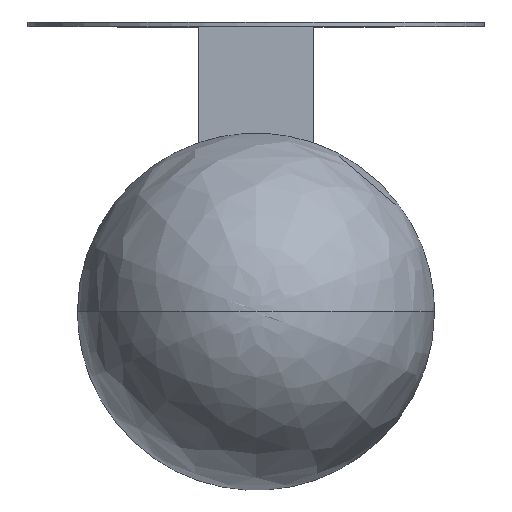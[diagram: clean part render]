
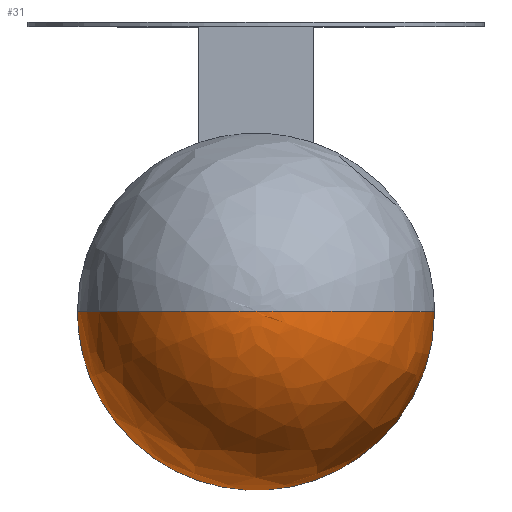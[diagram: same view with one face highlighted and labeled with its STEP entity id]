
A CAD part, top view. The second image highlights one B-rep face of the part: STEP entity #31.
In plain terms, the highlighted free-form (B-spline) face has degree [2, 2] with [5, 5] control points.
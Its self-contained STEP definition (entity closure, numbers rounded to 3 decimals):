
#31=ADVANCED_FACE('',(#43),#171,.T.);
#43=FACE_OUTER_BOUND('',#57,.T.);
#57=EDGE_LOOP('',(#98,#99,#100));
#98=ORIENTED_EDGE('',*,*,#124,.T.);
#99=ORIENTED_EDGE('',*,*,#117,.F.);
#100=ORIENTED_EDGE('',*,*,#123,.F.);
#117=EDGE_CURVE('',#159,#160,#131,.T.);
#123=EDGE_CURVE('',#163,#159,#137,.T.);
#124=EDGE_CURVE('',#163,#160,#138,.T.);
#131=(
BOUNDED_CURVE()
B_SPLINE_CURVE(2,(#393,#394,#395),.UNSPECIFIED.,.F.,.F.)
B_SPLINE_CURVE_WITH_KNOTS((3,3),(10.898,12.469),
 .UNSPECIFIED.)
CURVE()
GEOMETRIC_REPRESENTATION_ITEM()
RATIONAL_B_SPLINE_CURVE((1.,0.707,1.))
REPRESENTATION_ITEM('')
);
#137=(
BOUNDED_CURVE()
B_SPLINE_CURVE(2,(#416,#417,#418,#419,#420),.UNSPECIFIED.,.F.,.F.)
B_SPLINE_CURVE_WITH_KNOTS((3,2,3),(-186.918,-93.459,
0.),.UNSPECIFIED.)
CURVE()
GEOMETRIC_REPRESENTATION_ITEM()
RATIONAL_B_SPLINE_CURVE((1.,0.707,1.,0.707,1.))
REPRESENTATION_ITEM('')
);
#138=(
BOUNDED_CURVE()
B_SPLINE_CURVE(2,(#421,#422,#423),.UNSPECIFIED.,.F.,.F.)
B_SPLINE_CURVE_WITH_KNOTS((3,3),(10.898,12.469),
 .UNSPECIFIED.)
CURVE()
GEOMETRIC_REPRESENTATION_ITEM()
RATIONAL_B_SPLINE_CURVE((1.,0.707,1.))
REPRESENTATION_ITEM('')
);
#159=VERTEX_POINT('',#354);
#160=VERTEX_POINT('',#355);
#163=VERTEX_POINT('',#358);
#171=(
BOUNDED_SURFACE()
B_SPLINE_SURFACE(2,2,((#312,#313,#314,#315,#316),(#317,#318,#319,#320,#321),
(#322,#323,#324,#325,#326),(#327,#328,#329,#330,#331),(#332,#333,#334,#335,
#336)),.UNSPECIFIED.,.F.,.F.,.F.)
B_SPLINE_SURFACE_WITH_KNOTS((3,2,3),(3,2,3),(9.754,10.898,
12.469),(186.918,280.377,373.836),
 .UNSPECIFIED.)
GEOMETRIC_REPRESENTATION_ITEM()
RATIONAL_B_SPLINE_SURFACE(((0.884,0.625,0.884,
0.625,0.884),(0.787,0.556,
0.787,0.556,0.787),(1.,0.707,
1.,0.707,1.),(0.707,0.5,0.707,0.5,0.707),
(1.,0.707,1.,0.707,1.)))
REPRESENTATION_ITEM('')
SURFACE()
);
#312=CARTESIAN_POINT('',(24.962,-19.454,123.309));
#313=CARTESIAN_POINT('',(24.962,-44.454,123.309));
#314=CARTESIAN_POINT('',(-0.038,-44.454,123.309));
#315=CARTESIAN_POINT('',(-25.038,-44.454,123.309));
#316=CARTESIAN_POINT('',(-25.038,-19.454,123.309));
#317=CARTESIAN_POINT('',(62.462,-19.454,143.603));
#318=CARTESIAN_POINT('',(62.462,-81.954,143.603));
#319=CARTESIAN_POINT('',(-0.038,-81.954,143.603));
#320=CARTESIAN_POINT('',(-62.538,-81.954,143.603));
#321=CARTESIAN_POINT('',(-62.538,-19.454,143.603));
#322=CARTESIAN_POINT('',(62.462,-19.454,194.339));
#323=CARTESIAN_POINT('',(62.462,-81.954,194.339));
#324=CARTESIAN_POINT('',(-0.038,-81.954,194.339));
#325=CARTESIAN_POINT('',(-62.538,-81.954,194.339));
#326=CARTESIAN_POINT('',(-62.538,-19.454,194.339));
#327=CARTESIAN_POINT('',(62.462,-19.454,271.839));
#328=CARTESIAN_POINT('',(62.462,-81.954,271.839));
#329=CARTESIAN_POINT('',(-0.038,-81.954,271.839));
#330=CARTESIAN_POINT('',(-62.538,-81.954,271.839));
#331=CARTESIAN_POINT('',(-62.538,-19.454,271.839));
#332=CARTESIAN_POINT('',(-0.038,-19.454,271.839));
#333=CARTESIAN_POINT('',(-0.038,-19.454,271.839));
#334=CARTESIAN_POINT('',(-0.038,-19.454,271.839));
#335=CARTESIAN_POINT('',(-0.038,-19.454,271.839));
#336=CARTESIAN_POINT('',(-0.038,-19.454,271.839));
#354=CARTESIAN_POINT('',(-62.538,-19.454,194.339));
#355=CARTESIAN_POINT('',(-0.038,-19.454,271.839));
#358=CARTESIAN_POINT('',(62.462,-19.454,194.339));
#393=CARTESIAN_POINT('',(-62.538,-19.454,194.339));
#394=CARTESIAN_POINT('',(-62.538,-19.454,271.839));
#395=CARTESIAN_POINT('',(-0.038,-19.454,271.839));
#416=CARTESIAN_POINT('',(62.462,-19.454,194.339));
#417=CARTESIAN_POINT('',(62.462,-81.954,194.339));
#418=CARTESIAN_POINT('',(-0.038,-81.954,194.339));
#419=CARTESIAN_POINT('',(-62.538,-81.954,194.339));
#420=CARTESIAN_POINT('',(-62.538,-19.454,194.339));
#421=CARTESIAN_POINT('',(62.462,-19.454,194.339));
#422=CARTESIAN_POINT('',(62.462,-19.454,271.839));
#423=CARTESIAN_POINT('',(-0.038,-19.454,271.839));
